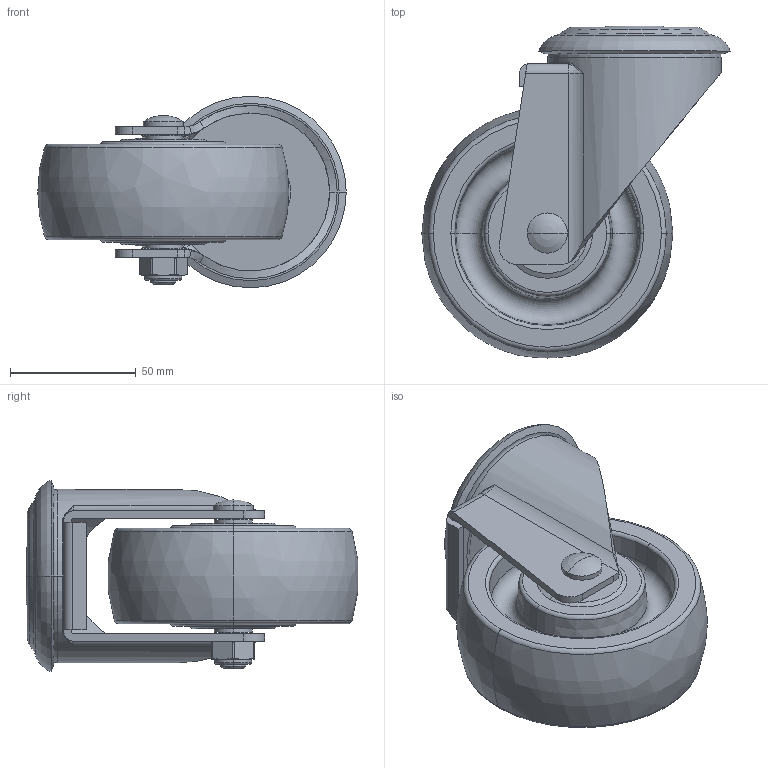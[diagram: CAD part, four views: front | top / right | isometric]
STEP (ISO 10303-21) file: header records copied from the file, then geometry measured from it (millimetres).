
FILE_DESCRIPTION((''),'2;1');
FILE_NAME('64174-644-06_ASM','2021-02-23T',('lenovo'),(''),'PRO/ENGINEER BY PARAMETRIC TECHNOLOGY CORPORATION, 2010280','PRO/ENGINEER BY PARAMETRIC TECHNOLOGY CORPORATION, 2010280','');
FILE_SCHEMA(('CONFIG_CONTROL_DESIGN'));
Length unit declared in the file: millimetre
Products named in the file (6): 6410-57; 644-11; 644-806; 630-33A; 630-34; 64174-644-06_ASM
Assembly tree (5 placements, depth 2):
  64174-644-06_ASM
    6410-57
    644-11
    644-806
    630-33A
    630-34
Bounding box: 122.83 x 132.2 x 76.26 mm (x, y, z)
Volume: 321289 mm3; surface area: 78128.9 mm2
Topology: 5 solids, 5 shells, 198 faces, 443 edges, 263 vertices
Faces by surface type: cylinder 51, plane 47, torus 46, cone 36, bspline 16, sphere 2
Entity records: 6600 total; most frequent: CARTESIAN_POINT 2037, DIRECTION 1009, ORIENTED_EDGE 882, EDGE_CURVE 441, AXIS2_PLACEMENT_3D 433, VERTEX_POINT 263, CIRCLE 240, EDGE_LOOP 218
